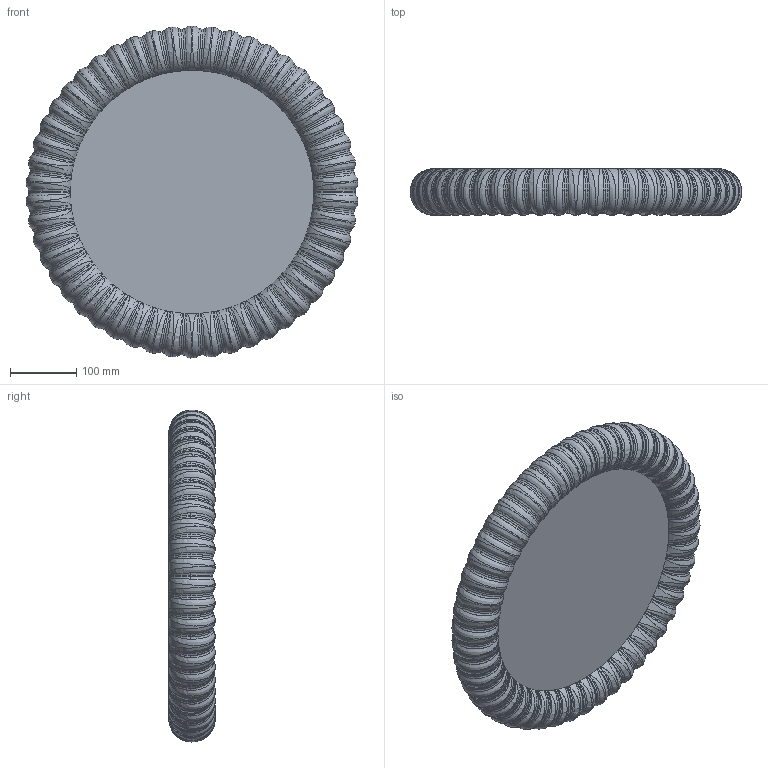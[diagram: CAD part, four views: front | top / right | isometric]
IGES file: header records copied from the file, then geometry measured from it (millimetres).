
Start section: SolidWorks IGES file using analytic representation for surfaces
Global section: file name: F:\燠隴矨\3D\2025-9\Ripple Halo Ceiling Light.IGS,15; native system: HSolidWorks 2022; preprocessor: SolidWorks 2022; author: MyPC; date: 250906.084418; units: millimetre
Bounding box: 499.34 x 70 x 500.05 mm (x, y, z)
Surface area: 465550.6 mm2 (no closed solid volume)
Topology: 0 solids, 0 shells, 504 faces, 8674 edges, 8426 vertices
Faces by surface type: bspline 354, revolution 150
